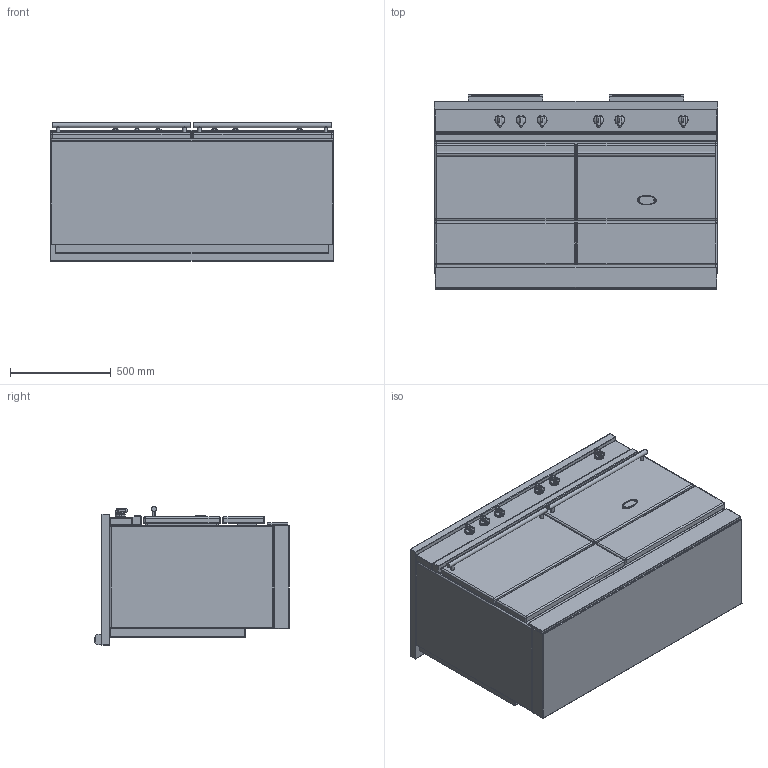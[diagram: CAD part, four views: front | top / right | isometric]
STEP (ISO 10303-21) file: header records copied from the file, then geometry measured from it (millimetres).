
FILE_DESCRIPTION((''),'2;1');
FILE_NAME('LMVTR1442_ASM','2022-04-13T11:52:49',('stagiaire'),(''),'CREO PARAMETRIC BY PTC INC, 2021424','CREO PARAMETRIC BY PTC INC, 2021424','');
FILE_SCHEMA(('AP203_CONFIGURATION_CONTROLLED_3D_DESIGN_OF_MECHANICAL_PARTS_AND_ASSEMBLIES_MIM_LF { 1 0 10303 403 2 1 2 }'));
Length unit declared in the file: millimetre
Products named in the file (12): BASE_EXPORT_SULLY_LMVTR1442; 65064012; 19150009; 88064012_ASM; 65049009; 65650001; BASE_EXPORT_SULLY_LMVTR1442_ASM; TABLE_SULLY_1405_INDUCTION_VTR; 65052002; CHEMINEE_2020_LG371_EXPORT_STEP; TABLE_SULLY_1405_VTR_ASM; LMVTR1442_ASM
Assembly tree (17 placements, depth 4):
  LMVTR1442_ASM
    BASE_EXPORT_SULLY_LMVTR1442_ASM
      BASE_EXPORT_SULLY_LMVTR1442
      88064012_ASM  x6
        65064012
        19150009
      65049009
      65650001
    TABLE_SULLY_1405_VTR_ASM
      TABLE_SULLY_1405_INDUCTION_VTR
      65052002
      CHEMINEE_2020_LG371_EXPORT_STEP  x2
Bounding box: 1405 x 963 x 688.5 mm (x, y, z)
Volume: 756739752.4 mm3; surface area: 11180555.4 mm2
Topology: 23 solids, 23 shells, 2405 faces, 6811 edges, 4310 vertices
Faces by surface type: cylinder 946, plane 929, sphere 226, bspline 208, torus 64, cone 30, extrusion 2
Entity records: 50948 total; most frequent: CARTESIAN_POINT 13835, DIRECTION 6539, ORIENTED_EDGE 6194, EDGE_CURVE 3097, AXIS2_PLACEMENT_3D 2209, VECTOR 2088, LINE 2086, VERTEX_POINT 1945
